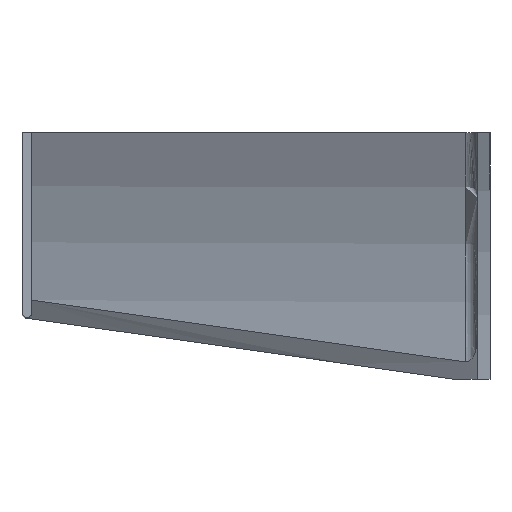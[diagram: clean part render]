
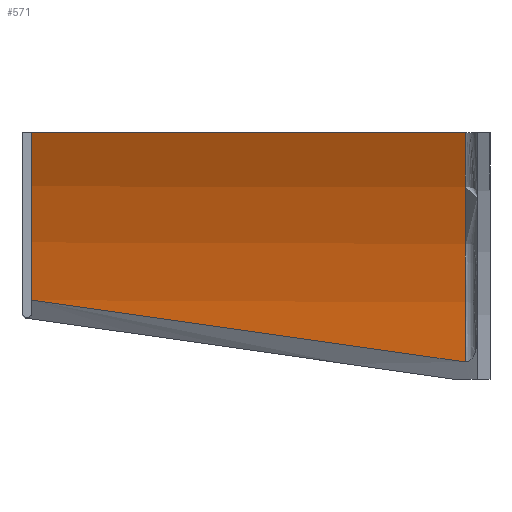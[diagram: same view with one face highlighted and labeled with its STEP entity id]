
A CAD part, top view. The second image highlights one B-rep face of the part: STEP entity #571.
In plain terms, the highlighted cylindrical face has radius 85 mm (diameter 170 mm), a partial arc.
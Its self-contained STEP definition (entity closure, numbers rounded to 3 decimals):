
#52=LINE('',#1011,#101);
#101=VECTOR('',#721,10.);
#145=CYLINDRICAL_SURFACE('',#633,85.);
#154=FACE_OUTER_BOUND('',#187,.T.);
#187=EDGE_LOOP('',(#422,#423,#424,#425));
#226=CIRCLE('',#632,85.);
#227=CIRCLE('',#634,85.);
#244=B_SPLINE_CURVE_WITH_KNOTS('',3,(#1014,#1015,#1016,#1017,#1018,#1019,
#1020,#1021,#1022,#1023),.UNSPECIFIED.,.F.,.F.,(4,3,3,4),(0.036,
3.111,3.641,7.056),.UNSPECIFIED.);
#272=VERTEX_POINT('',#980);
#274=VERTEX_POINT('',#997);
#275=VERTEX_POINT('',#1010);
#276=VERTEX_POINT('',#1012);
#333=EDGE_CURVE('',#272,#274,#226,.T.);
#334=EDGE_CURVE('',#275,#274,#52,.F.);
#335=EDGE_CURVE('',#276,#275,#227,.T.);
#336=EDGE_CURVE('',#276,#272,#244,.T.);
#422=ORIENTED_EDGE('',*,*,#333,.T.);
#423=ORIENTED_EDGE('',*,*,#334,.F.);
#424=ORIENTED_EDGE('',*,*,#335,.F.);
#425=ORIENTED_EDGE('',*,*,#336,.T.);
#571=ADVANCED_FACE('',(#154),#145,.F.);
#632=AXIS2_PLACEMENT_3D('',#1008,#717,#718);
#633=AXIS2_PLACEMENT_3D('',#1009,#719,#720);
#634=AXIS2_PLACEMENT_3D('',#1013,#722,#723);
#717=DIRECTION('center_axis',(1.,0.,0.));
#718=DIRECTION('ref_axis',(0.,0.255,-0.967));
#719=DIRECTION('center_axis',(-1.,0.,0.));
#720=DIRECTION('ref_axis',(0.,0.,-1.));
#721=DIRECTION('',(-1.,0.,0.));
#722=DIRECTION('center_axis',(1.,0.,0.));
#723=DIRECTION('ref_axis',(0.,0.,-1.));
#980=CARTESIAN_POINT('',(-20.774,-396.713,3.726));
#997=CARTESIAN_POINT('',(-20.774,-360.,13.465));
#1008=CARTESIAN_POINT('Origin',(-20.774,-399.6,88.677));
#1009=CARTESIAN_POINT('Origin',(-91.774,-399.6,88.677));
#1010=CARTESIAN_POINT('',(-90.274,-360.,13.465));
#1011=CARTESIAN_POINT('',(-91.774,-360.,13.465));
#1012=CARTESIAN_POINT('',(-90.274,-386.81,4.645));
#1013=CARTESIAN_POINT('Origin',(-90.274,-399.6,88.677));
#1014=CARTESIAN_POINT('Ctrl Pts',(-90.274,-386.81,4.645));
#1015=CARTESIAN_POINT('Ctrl Pts',(-80.129,-388.253,4.425));
#1016=CARTESIAN_POINT('Ctrl Pts',(-69.979,-389.697,4.243));
#1017=CARTESIAN_POINT('Ctrl Pts',(-59.832,-391.143,4.099));
#1018=CARTESIAN_POINT('Ctrl Pts',(-58.083,-391.392,4.074));
#1019=CARTESIAN_POINT('Ctrl Pts',(-56.334,-391.641,4.05));
#1020=CARTESIAN_POINT('Ctrl Pts',(-54.586,-391.89,4.028));
#1021=CARTESIAN_POINT('Ctrl Pts',(-43.318,-393.496,3.881));
#1022=CARTESIAN_POINT('Ctrl Pts',(-32.043,-395.104,3.781));
#1023=CARTESIAN_POINT('Ctrl Pts',(-20.774,-396.713,3.726));
